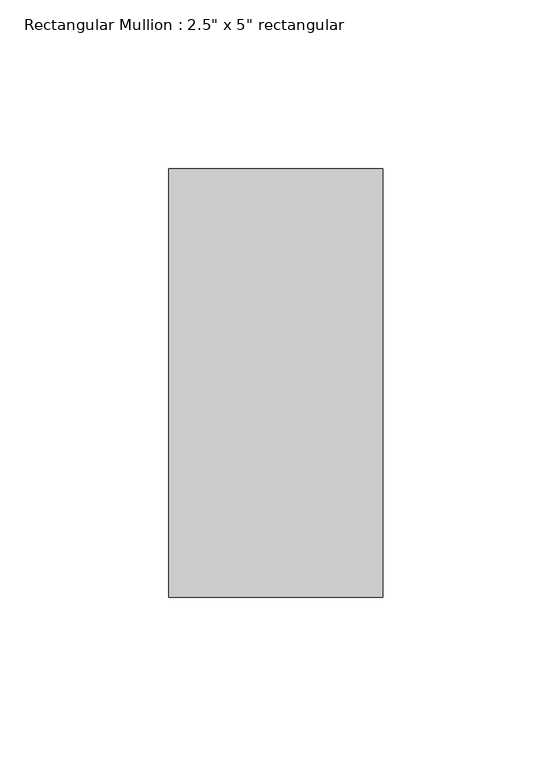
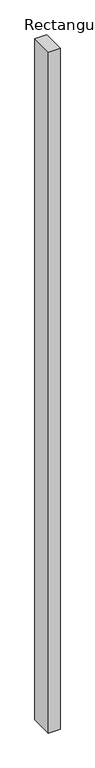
"""IFC4 building model written with IfcOpenShell, lengths in millimetres: member geometry."""

from ifc_helpers import new_model, si_unit, frame, origin, place, context, project, spatial, polyline, outline, extrude, source, transform, mapped, element, save


def member_d183bd50(model_context):
    return source(origin(), model_context, "Body", "SweptSolid", [
        extrude(outline(polyline([(31.75, 63.5), (31.75, -63.5), (-31.75, -63.5), (-31.75, 63.5), (31.75, 63.5)])), frame((0.0, 0.0, -3917.9186444), z_axis=(0.0, 0.0, 1.0), x_axis=(1.0, 0.0, 0.0)), (0.0, 0.0, 1.0), 3917.9186444),
    ])


if __name__ == "__main__":
    model = new_model("IFC4")
    model_context = context("Model", 3, world=origin())
    ifc_project = project(units=[si_unit("LENGTHUNIT", "METRE", prefix="MILLI")], contexts=[model_context])
    site = spatial("IfcSite", under=ifc_project)
    building = spatial("IfcBuilding", under=site)
    placement = place(None, origin())
    member_shape = member_d183bd50(model_context)
    element("IfcMember", 1, ObjectType="Rectangular Mullion : 2.5\" x 5\" rectangular", at=placement, inside=building, context=model_context, shape_type="MappedRepresentation", body=[
        mapped(member_shape, transform((0.0, 0.0, 0.0), x_axis=(1.0, 0.0, 0.0), y_axis=(0.0, 1.0, 0.0), z_axis=(0.0, 0.0, 1.0))),
    ])
    save(model, "model.ifc")
